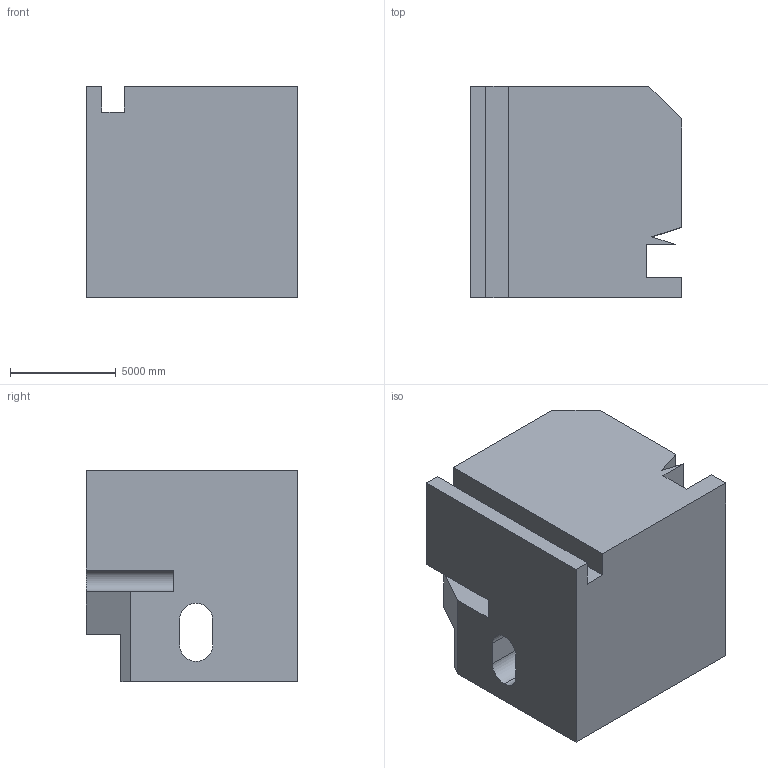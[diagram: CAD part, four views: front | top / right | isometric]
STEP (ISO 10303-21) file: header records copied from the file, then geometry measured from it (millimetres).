
FILE_DESCRIPTION (( 'STEP AP203' ), '1' );
FILE_NAME ('1825.STEP', '2022-08-19T13:15:35', ( 'user' ), ( '' ), 'SwSTEP 2.0', 'SolidWorks 2021', '' );
FILE_SCHEMA (( 'CONFIG_CONTROL_DESIGN' ));
Length unit declared in the file: centimetre
Products named in the file (1): 1825
Bounding box: 10000 x 10000 x 10000 mm (x, y, z)
Volume: 846242442209 mm3; surface area: 760581628.7 mm2
Topology: 1 solids, 1 shells, 35 faces, 93 edges, 62 vertices
Faces by surface type: plane 27, cylinder 8
Entity records: 1164 total; most frequent: CARTESIAN_POINT 191, ORIENTED_EDGE 186, DIRECTION 181, EDGE_CURVE 93, LINE 77, VECTOR 77, VERTEX_POINT 62, AXIS2_PLACEMENT_3D 52
